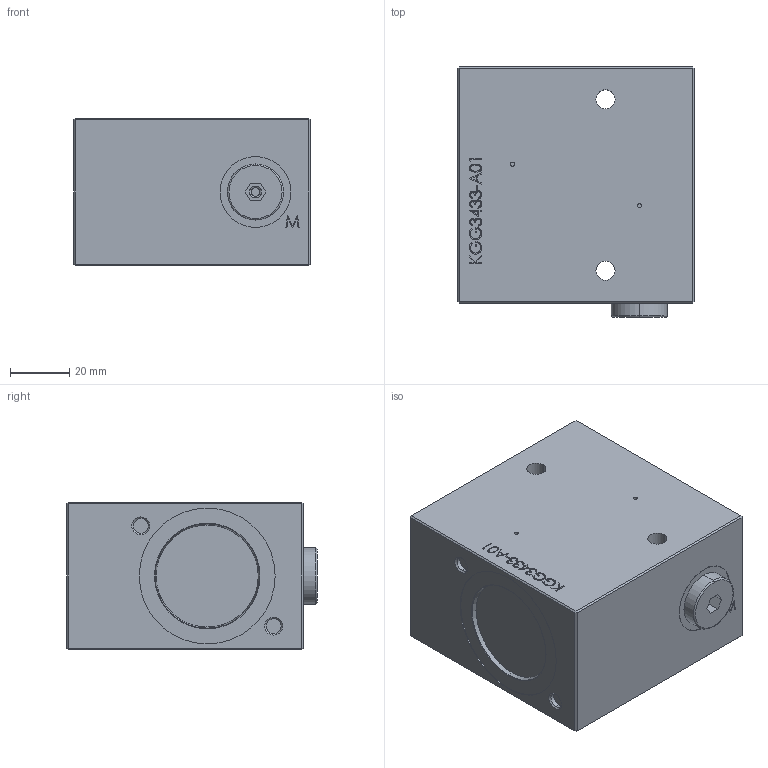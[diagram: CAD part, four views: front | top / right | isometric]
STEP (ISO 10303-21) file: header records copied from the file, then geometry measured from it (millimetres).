
FILE_DESCRIPTION (( 'STEP AP214' ), '1' );
FILE_NAME ('KGG3433-A01.STEP', '2016-11-25T10:52:12', ( '' ), ( '' ), 'SwSTEP 2.0', 'SolidWorks 2014', '' );
FILE_SCHEMA (( 'AUTOMOTIVE_DESIGN' ));
Length unit declared in the file: millimetre
Products named in the file (2): KGG3433-A01
Bounding box: 80 x 84.7 x 50 mm (x, y, z)
Volume: 312047.1 mm3; surface area: 32477.6 mm2
Topology: 2 solids, 3 shells, 275 faces, 682 edges, 444 vertices
Faces by surface type: plane 154, bspline 75, cylinder 34, cone 8, torus 4
Entity records: 15427 total; most frequent: CARTESIAN_POINT 6318, ORIENTED_EDGE 1364, DIRECTION 1024, EDGE_CURVE 682, VECTOR 444, VERTEX_POINT 444, LINE 444, EDGE_LOOP 314
